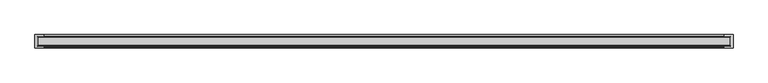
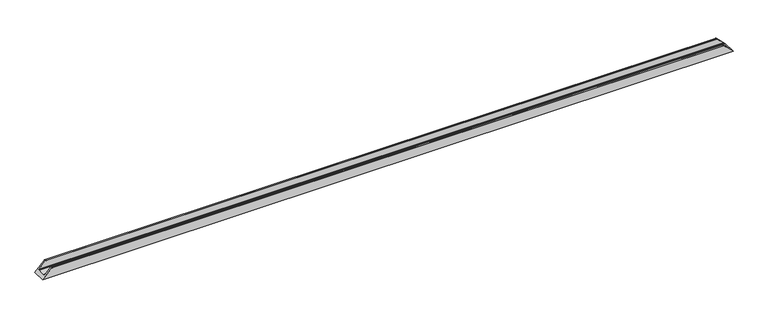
"""IFC4 building model written with IfcOpenShell, lengths in millimetres: proxy geometry, Weiku - Montante - Caixilho único 02.3.02.403 : Weiku - Montante - Caixilho único 02.3.02.403."""

from ifc_helpers import new_model, si_unit, frame, origin, place, context, project, spatial, ellipse_curve, source, transform, mapped, element, save
from ifc_brep_helpers import plane_surface, cylinder_surface, advanced_brep


def generic_models_aceb4063(model_context):
    return source(origin(), model_context, "Body", "AdvancedBrep", [
        advanced_brep(
        [(-2038.2, -9.8, 18.2), (2038.2, -9.8, 18.2), (2000.5, -9.8, 55.9), (-2000.5, -9.8, 55.9), (-2040.7000079, -63.85, 15.6999921), (2040.7000079, -63.85, 15.6999921), (2040.7000079, -15.05, 15.6999921), (-2040.7000079, -15.05, 15.6999921), (-2056.4, -78.9, 0.0), (-2056.4, 0.0, 0.0), (2056.4, 0.0, 0.0), (2056.4, -78.9, 0.0), (-2000.5, 0.0, 55.9), (2000.5, 0.0, 55.9), (-2000.0, -9.3, 56.4), (2000.0, -9.3, 56.4), (2000.0, -0.5, 56.4), (-2000.0, -0.5, 56.4), (-2038.2, -15.05, 18.2), (2038.2, -15.05, 18.2), (-2038.2, -63.85, 18.2), (2038.2, -63.85, 18.2), (-2038.2, -69.1, 18.2), (2038.2, -69.1, 18.2), (-2000.5, -69.1, 55.9), (2000.5, -69.1, 55.9), (-2000.0, -78.4, 56.4), (2000.0, -78.4, 56.4), (2000.0, -69.6, 56.4), (-2000.0, -69.6, 56.4), (-2000.5, -78.9, 55.9), (2000.5, -78.9, 55.9)],
        [
            (0, 1),
            (1, 2),
            (2, 3),
            (3, 0),
            (4, 5),
            (5, 6),
            (6, 7),
            (7, 4),
            (8, 9),
            (9, 10),
            (10, 11),
            (11, 8),
            (9, 12),
            (12, 13),
            (13, 10),
            (14, 15),
            (15, 16),
            (16, 17),
            (17, 14),
            (18, 19),
            (19, 1),
            (0, 18),
            (6, 19),
            (18, 7),
            (16, 13, ellipse_curve(frame((2000.5, -0.5, 55.9), z_axis=(-0.7071067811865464, 0.0, -0.7071067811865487), x_axis=(-0.7071067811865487, 0.0, 0.7071067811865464)), 0.7071068, 0.5)),
            (12, 17, ellipse_curve(frame((-2000.5, -0.5, 55.9), z_axis=(0.7071067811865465, 0.0, -0.7071067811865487), x_axis=(-0.7071067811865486, 0.0, -0.7071067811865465)), 0.7071068, 0.5)),
            (20, 21),
            (21, 5),
            (4, 20),
            (22, 23),
            (23, 21),
            (20, 22),
            (24, 25),
            (25, 23),
            (22, 24),
            (26, 27),
            (27, 28),
            (28, 29),
            (29, 26),
            (30, 31),
            (31, 27, ellipse_curve(frame((2000.5, -78.4, 55.9), z_axis=(-0.7071067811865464, 0.0, -0.7071067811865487), x_axis=(-0.7071067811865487, 0.0, 0.7071067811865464)), 0.7071068, 0.5)),
            (26, 30, ellipse_curve(frame((-2000.5, -78.4, 55.9), z_axis=(0.7071067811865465, 0.0, -0.7071067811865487), x_axis=(-0.7071067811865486, 0.0, -0.7071067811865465)), 0.7071068, 0.5)),
            (11, 31),
            (30, 8),
            (2, 15, ellipse_curve(frame((2000.5, -9.3, 55.9), z_axis=(-0.7071067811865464, 0.0, -0.7071067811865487), x_axis=(-0.7071067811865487, 0.0, 0.7071067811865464)), 0.7071068, 0.5)),
            (14, 3, ellipse_curve(frame((-2000.5, -9.3, 55.9), z_axis=(0.7071067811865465, 0.0, -0.7071067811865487), x_axis=(-0.7071067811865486, 0.0, -0.7071067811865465)), 0.7071068, 0.5)),
            (28, 25, ellipse_curve(frame((2000.5, -69.6, 55.9), z_axis=(-0.7071067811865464, 0.0, -0.7071067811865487), x_axis=(-0.7071067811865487, 0.0, 0.7071067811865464)), 0.7071068, 0.5)),
            (24, 29, ellipse_curve(frame((-2000.5, -69.6, 55.9), z_axis=(0.7071067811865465, 0.0, -0.7071067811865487), x_axis=(-0.7071067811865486, 0.0, -0.7071067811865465)), 0.7071068, 0.5)),
        ],
        [
            plane_surface(frame((-2056.4, -9.8, 55.9), z_axis=(0.0, -1.0, 0.0), x_axis=(1.0, 0.0, 0.0))),
            plane_surface(frame((-2056.4, -15.05, 15.6999921), z_axis=(0.0, 0.0, 1.0), x_axis=(1.0, 0.0, 0.0))),
            plane_surface(frame((-2056.4, -78.9, 0.0), z_axis=(0.0, 0.0, -1.0), x_axis=(1.0, 0.0, 0.0))),
            plane_surface(frame((-2056.4, 0.0, 0.0), z_axis=(0.0, 1.0, 0.0), x_axis=(1.0, 0.0, 0.0))),
            plane_surface(frame((-2056.4, -0.5, 56.4), z_axis=(0.0, 0.0, 1.0), x_axis=(1.0, 0.0, 0.0))),
            plane_surface(frame((-2056.4, -9.8, 18.2), z_axis=(0.0, 0.0, 1.0), x_axis=(1.0, 0.0, 0.0))),
            plane_surface(frame((-2056.4, -15.05, 18.2), z_axis=(0.0, -1.0, 0.0), x_axis=(1.0, 0.0, 0.0))),
            cylinder_surface(frame((-2056.4, -0.5, 55.9), z_axis=(-1.0, 0.0, 0.0), x_axis=(0.0, -1.0, 0.0)), 0.5),
            plane_surface(frame((-2056.4, -63.85, 15.6999921), z_axis=(0.0, 1.0, 0.0), x_axis=(1.0, 0.0, 0.0))),
            plane_surface(frame((-2056.4, -63.85, 18.2), z_axis=(0.0, 0.0, 1.0), x_axis=(1.0, 0.0, 0.0))),
            plane_surface(frame((-2056.4, -69.1, 18.2), z_axis=(0.0, 1.0, 0.0), x_axis=(1.0, 0.0, 0.0))),
            plane_surface(frame((-2056.4, -69.6, 56.4), z_axis=(0.0, 0.0, 1.0), x_axis=(1.0, 0.0, 0.0))),
            cylinder_surface(frame((-2056.4, -78.4, 55.9), z_axis=(-1.0, 0.0, 0.0), x_axis=(0.0, 1.0, 0.0)), 0.5),
            plane_surface(frame((-2056.4, -78.9, 55.9), z_axis=(0.0, -1.0, 0.0), x_axis=(1.0, 0.0, 0.0))),
            cylinder_surface(frame((-2056.4, -9.3, 55.9), z_axis=(-1.0, 0.0, 0.0), x_axis=(0.0, -1.0, 0.0)), 0.5),
            cylinder_surface(frame((-2056.4, -69.6, 55.9), z_axis=(-1.0, 0.0, 0.0), x_axis=(0.0, -1.0, 0.0)), 0.5),
            plane_surface(frame((-2056.4, 0.0, 0.0), z_axis=(-0.7071067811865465, 0.0, 0.7071067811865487), x_axis=(0.0, -1.0, 0.0))),
            plane_surface(frame((1996.4, 0.0, 60.0), z_axis=(0.7071067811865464, 0.0, 0.7071067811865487), x_axis=(0.0, -1.0, 0.0))),
        ],
        [
            (0, [[1, 2, 3, 4]]),
            (1, [[5, 6, 7, 8]]),
            (2, [[9, 10, 11, 12]]),
            (3, [[13, 14, 15, -10]]),
            (4, [[16, 17, 18, 19]]),
            (5, [[20, 21, -1, 22]]),
            (6, [[-7, 23, -20, 24]]),
            (7, [[-18, 25, -14, 26]]),
            (8, [[27, 28, -5, 29]]),
            (9, [[30, 31, -27, 32]]),
            (10, [[33, 34, -30, 35]]),
            (11, [[36, 37, 38, 39]]),
            (12, [[40, 41, -36, 42]]),
            (13, [[43, -40, 44, -12]]),
            (14, [[-3, 45, -16, 46]]),
            (15, [[-38, 47, -33, 48]]),
            (16, [[-46, -19, -26, -13, -9, -44, -42, -39, -48, -35, -32, -29, -8, -24, -22, -4]]),
            (17, [[-21, -23, -6, -28, -31, -34, -47, -37, -41, -43, -11, -15, -25, -17, -45, -2]]),
        ],
    ),
    ])


if __name__ == "__main__":
    model = new_model("IFC4")
    model_context = context("Model", 3, world=origin())
    ifc_project = project(units=[si_unit("LENGTHUNIT", "METRE", prefix="MILLI")], contexts=[model_context])
    site = spatial("IfcSite", under=ifc_project)
    building = spatial("IfcBuilding", under=site)
    placement = place(None, origin())
    generic_models_shape = generic_models_aceb4063(model_context)
    element("IfcBuildingElementProxy", 1, Name="Weiku - Montante - Caixilho único 02.3.02.403 : Weiku - Montante - Caixilho único 02.3.02.403", ObjectType="Weiku - Montante - Caixilho único 02.3.02.403 : Weiku - Montante - Caixilho único 02.3.02.403", at=placement, inside=building, context=model_context, shape_type="MappedRepresentation", body=[
        mapped(generic_models_shape, transform((0.0, 0.0, 0.0), x_axis=(1.0, 0.0, 0.0), y_axis=(0.0, 1.0, 0.0), z_axis=(0.0, 0.0, 1.0))),
    ])
    save(model, "model.ifc")
